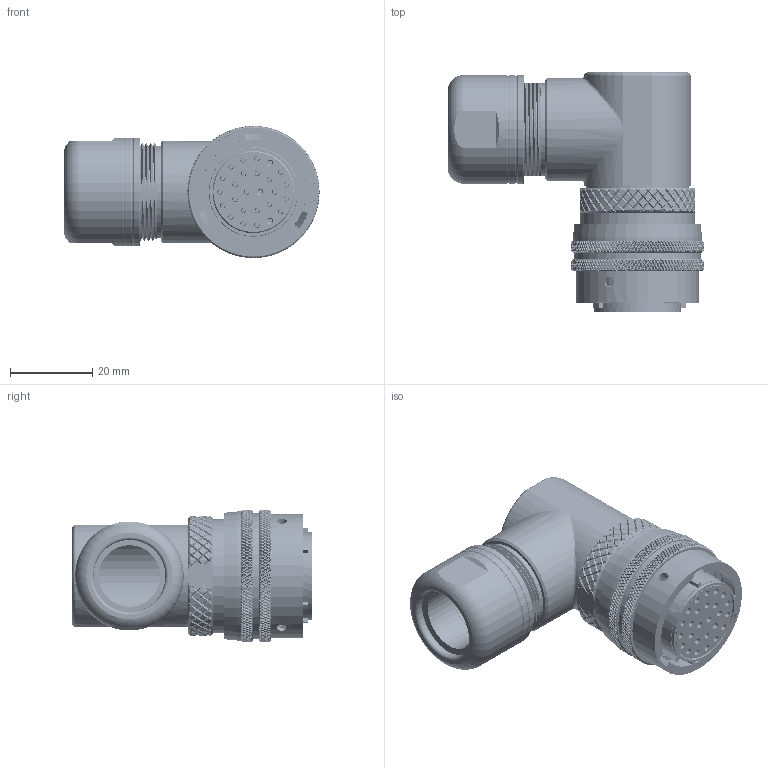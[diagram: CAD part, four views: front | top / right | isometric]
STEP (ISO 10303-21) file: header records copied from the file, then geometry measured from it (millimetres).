
FILE_DESCRIPTION (( 'STEP AP214' ), '1' );
FILE_NAME ('1.Y11865.STEP', '2021-03-30T06:50:16', ( '微软用户' ), ( '微软中国' ), 'SwSTEP 2.0', 'SolidWorks 2018', '' );
FILE_SCHEMA (( 'AUTOMOTIVE_DESIGN' ));
Length unit declared in the file: millimetre
Products named in the file (1): 1.Y11865
Bounding box: 62.08 x 58.35 x 32.16 mm (x, y, z)
Volume: 25684.5 mm3; surface area: 33111.6 mm2
Topology: 8 solids, 8 shells, 7852 faces, 18033 edges, 10300 vertices
Faces by surface type: bspline 4574, cylinder 1917, plane 523, torus 440, cone 398
Entity records: 319956 total; most frequent: CARTESIAN_POINT 178014, ORIENTED_EDGE 35962, EDGE_CURVE 17981, DIRECTION 17145, B_SPLINE_CURVE_WITH_KNOTS 10606, VERTEX_POINT 10300, EDGE_LOOP 8047, FACE_OUTER_BOUND 7852
